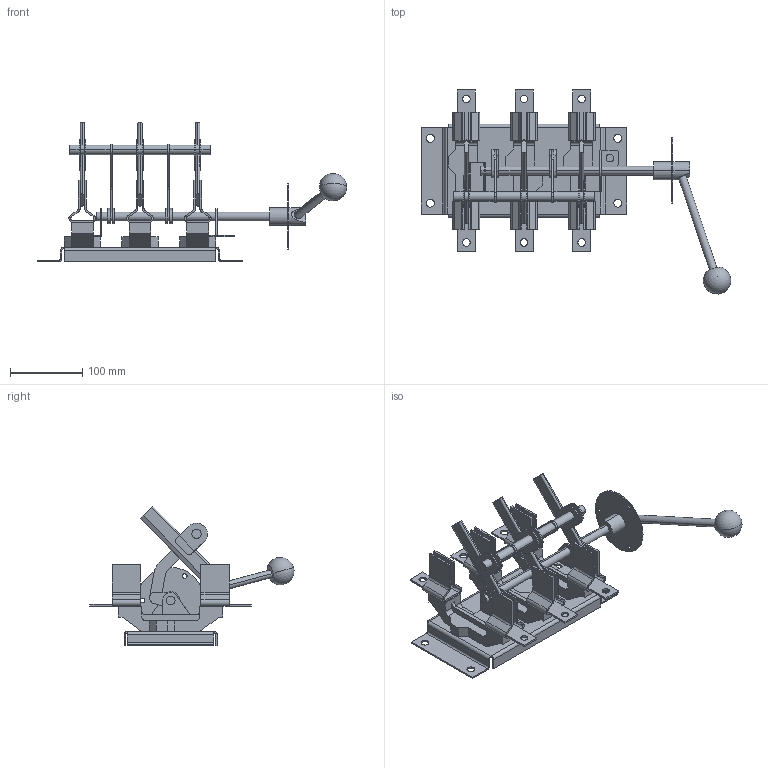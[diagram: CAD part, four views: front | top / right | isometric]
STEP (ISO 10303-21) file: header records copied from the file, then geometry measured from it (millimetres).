
FILE_DESCRIPTION (( 'STEP AP214' ), '1' );
FILE_NAME ('Ðàçúåäèíèòåëü ÐÁ-2-2Ï-250À-Ó3-ÊÝÀÇ.STEP', '2023-05-01T20:56:11', ( '' ), ( '' ), 'SwSTEP 2.0', 'SolidWorks 2018', '' );
FILE_SCHEMA (( 'AUTOMOTIVE_DESIGN' ));
Length unit declared in the file: millimetre
Products named in the file (1): Ðàçúåäèíèòåëü ÐÁ-2-2Ï-250À-Ó3-ÊÝÀÇ
Bounding box: 429.16 x 283.08 x 194.02 mm (x, y, z)
Volume: 691818.3 mm3; surface area: 307725.2 mm2
Topology: 6 solids, 6 shells, 539 faces, 1522 edges, 1000 vertices
Faces by surface type: plane 321, cylinder 214, bspline 2, sphere 2
Entity records: 23540 total; most frequent: CARTESIAN_POINT 3107, ORIENTED_EDGE 3034, DIRECTION 3019, EDGE_CURVE 1517, LINE 1081, VECTOR 1081, VERTEX_POINT 997, AXIS2_PLACEMENT_3D 969
